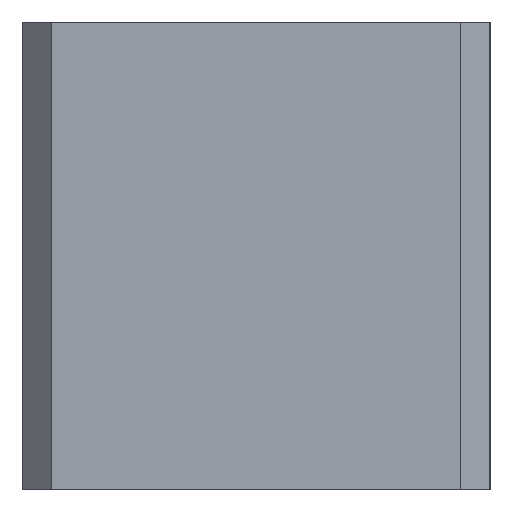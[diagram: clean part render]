
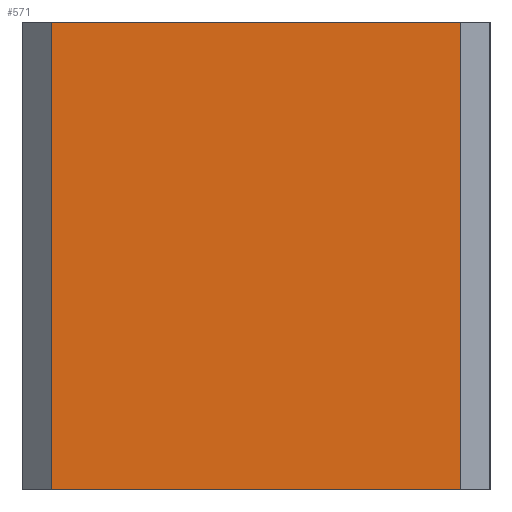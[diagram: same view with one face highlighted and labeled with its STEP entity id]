
A CAD part, left-side view. The second image highlights one B-rep face of the part: STEP entity #571.
In plain terms, the highlighted planar face has unit normal (-1, 0, 0).
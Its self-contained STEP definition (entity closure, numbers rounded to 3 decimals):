
#558=AXIS2_PLACEMENT_3D('Plane Axis2P3D',#555,#556,#557) ;
#430=CARTESIAN_POINT('Vertex',(-9.,-7.,0.)) ;
#437=CARTESIAN_POINT('Vertex',(-9.,-7.,16.)) ;
#440=CARTESIAN_POINT('Line Origine',(-9.,-7.,8.)) ;
#488=CARTESIAN_POINT('Line Origine',(-9.,0.,16.)) ;
#492=CARTESIAN_POINT('Vertex',(-9.,7.,16.)) ;
#528=CARTESIAN_POINT('Vertex',(-9.,7.,0.)) ;
#531=CARTESIAN_POINT('Line Origine',(-9.,0.,0.)) ;
#555=CARTESIAN_POINT('Axis2P3D Location',(-9.,0.,0.)) ;
#560=CARTESIAN_POINT('Line Origine',(-9.,7.,8.)) ;
#441=DIRECTION('Vector Direction',(0.,0.,-1.)) ;
#489=DIRECTION('Vector Direction',(0.,-1.,0.)) ;
#532=DIRECTION('Vector Direction',(0.,-1.,0.)) ;
#556=DIRECTION('Axis2P3D Direction',(-1.,0.,0.)) ;
#557=DIRECTION('Axis2P3D XDirection',(0.,-1.,0.)) ;
#561=DIRECTION('Vector Direction',(0.,0.,1.)) ;
#442=VECTOR('Line Direction',#441,1.) ;
#490=VECTOR('Line Direction',#489,1.) ;
#533=VECTOR('Line Direction',#532,1.) ;
#562=VECTOR('Line Direction',#561,1.) ;
#566=ORIENTED_EDGE('',*,*,#535,.T.) ;
#567=ORIENTED_EDGE('',*,*,#444,.F.) ;
#568=ORIENTED_EDGE('',*,*,#494,.F.) ;
#569=ORIENTED_EDGE('',*,*,#564,.T.) ;
#571=ADVANCED_FACE('\X2\96F64EF651E04F554F53\X0\',(#570),#559,.T.) ;
#444=EDGE_CURVE('',#438,#431,#443,.T.) ;
#494=EDGE_CURVE('',#493,#438,#491,.T.) ;
#535=EDGE_CURVE('',#529,#431,#534,.T.) ;
#564=EDGE_CURVE('',#493,#529,#563,.F.) ;
#565=EDGE_LOOP('',(#566,#567,#568,#569)) ;
#570=FACE_OUTER_BOUND('',#565,.T.) ;
#443=LINE('Line',#440,#442) ;
#491=LINE('Line',#488,#490) ;
#534=LINE('Line',#531,#533) ;
#563=LINE('Line',#560,#562) ;
#559=PLANE('Plane',#558) ;
#431=VERTEX_POINT('',#430) ;
#438=VERTEX_POINT('',#437) ;
#493=VERTEX_POINT('',#492) ;
#529=VERTEX_POINT('',#528) ;
